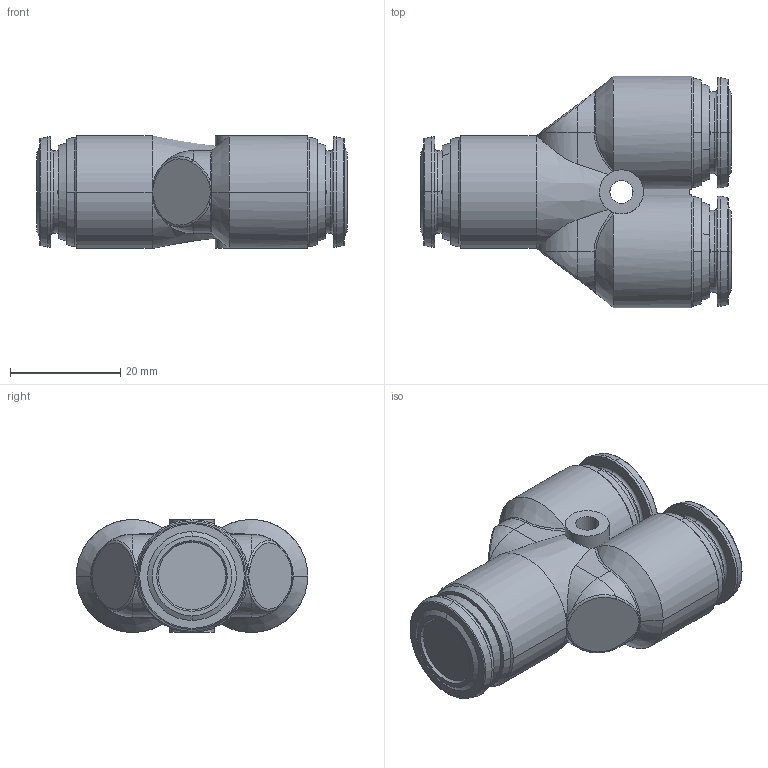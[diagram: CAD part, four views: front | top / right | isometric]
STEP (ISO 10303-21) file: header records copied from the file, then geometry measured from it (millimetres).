
FILE_DESCRIPTION (( 'STEP AP203' ), '1' );
FILE_NAME ('60310X0005A.STEP', '2023-04-26T14:03:47', ( '' ), ( '' ), 'SwSTEP 2.0', 'SolidWorks 2020', '' );
FILE_SCHEMA (( 'CONFIG_CONTROL_DESIGN' ));
Length unit declared in the file: millimetre
Products named in the file (1): 60310X0005A
Bounding box: 56.3 x 42 x 20.5 mm (x, y, z)
Volume: 25803.3 mm3; surface area: 7993.9 mm2
Topology: 1 solids, 7 shells, 335 faces, 838 edges, 516 vertices
Faces by surface type: plane 115, cylinder 84, cone 60, bspline 32, torus 28, sphere 16
Entity records: 11650 total; most frequent: CARTESIAN_POINT 3887, ORIENTED_EDGE 1648, DIRECTION 1590, EDGE_CURVE 824, AXIS2_PLACEMENT_3D 644, VERTEX_POINT 514, EDGE_LOOP 356, CIRCLE 340
